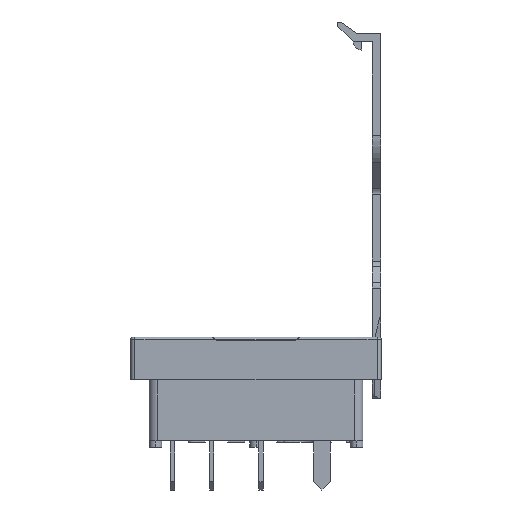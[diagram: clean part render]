
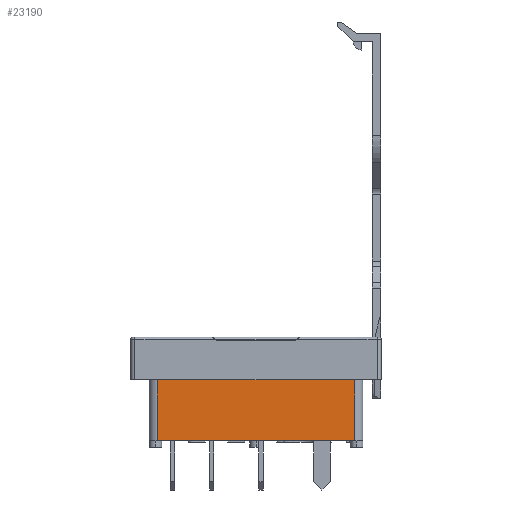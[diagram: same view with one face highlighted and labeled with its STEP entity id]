
A CAD part, left-side view. The second image highlights one B-rep face of the part: STEP entity #23190.
In plain terms, the highlighted planar face has unit normal (-1, 0, 0).
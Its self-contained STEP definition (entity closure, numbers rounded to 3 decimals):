
#1484 = EDGE_CURVE ( 'NONE', #16642, #3687, #10764, .T. ) ;
#2959 = LINE ( 'NONE', #26568, #15065 ) ;
#3687 = VERTEX_POINT ( 'NONE', #24061 ) ;
#3760 = ORIENTED_EDGE ( 'NONE', *, *, #24515, .F. ) ;
#4346 = CARTESIAN_POINT ( 'NONE',  ( 1.75, 26.8, 17. ) ) ;
#6613 = CARTESIAN_POINT ( 'NONE',  ( 1.75, 27.8, 13.2 ) ) ;
#6900 = DIRECTION ( 'NONE',  ( 0., -1., 0. ) ) ;
#7366 = CARTESIAN_POINT ( 'NONE',  ( 1.75, 26.8, 5.9 ) ) ;
#8208 = EDGE_CURVE ( 'NONE', #10502, #19221, #24657, .T. ) ;
#8717 = PLANE ( 'NONE',  #17303 ) ;
#8962 = DIRECTION ( 'NONE',  ( 0., 0., -1. ) ) ;
#9202 = CARTESIAN_POINT ( 'NONE',  ( 1.75, 26.8, 5.9 ) ) ;
#9785 = EDGE_LOOP ( 'NONE', ( #3760, #21422, #26823, #28136 ) ) ;
#9794 = CARTESIAN_POINT ( 'NONE',  ( 1.75, 3.2, 5.9 ) ) ;
#10502 = VERTEX_POINT ( 'NONE', #17776 ) ;
#10734 = EDGE_CURVE ( 'NONE', #19221, #16642, #15184, .T. ) ;
#10764 = LINE ( 'NONE', #6613, #22777 ) ;
#15065 = VECTOR ( 'NONE', #8962, 1000. ) ;
#15184 = LINE ( 'NONE', #4346, #27137 ) ;
#16642 = VERTEX_POINT ( 'NONE', #21737 ) ;
#17303 = AXIS2_PLACEMENT_3D ( 'NONE', #21263, #19703, #17559 ) ;
#17559 = DIRECTION ( 'NONE',  ( 0., 1., 0. ) ) ;
#17776 = CARTESIAN_POINT ( 'NONE',  ( 1.75, 3.2, 5.9 ) ) ;
#19221 = VERTEX_POINT ( 'NONE', #9202 ) ;
#19703 = DIRECTION ( 'NONE',  ( 1., 0., 0. ) ) ;
#21263 = CARTESIAN_POINT ( 'NONE',  ( 1.75, 27.8, 17. ) ) ;
#21422 = ORIENTED_EDGE ( 'NONE', *, *, #1484, .F. ) ;
#21697 = FACE_OUTER_BOUND ( 'NONE', #9785, .T. ) ;
#21737 = CARTESIAN_POINT ( 'NONE',  ( 1.75, 26.8, 13.2 ) ) ;
#22777 = VECTOR ( 'NONE', #6900, 1000. ) ;
#23190 = ADVANCED_FACE ( 'NONE', ( #21697 ), #8717, .F. ) ;
#24061 = CARTESIAN_POINT ( 'NONE',  ( 1.75, 3.2, 13.2 ) ) ;
#24515 = EDGE_CURVE ( 'NONE', #3687, #10502, #2959, .T. ) ;
#24657 = B_SPLINE_CURVE_WITH_KNOTS ( 'NONE', 1,
 ( #9794, #7366 ),
 .UNSPECIFIED., .F., .F.,
 ( 2, 2 ),
 ( 0., 1. ),
 .UNSPECIFIED. ) ;
#26568 = CARTESIAN_POINT ( 'NONE',  ( 1.75, 3.2, 17. ) ) ;
#26823 = ORIENTED_EDGE ( 'NONE', *, *, #10734, .F. ) ;
#27137 = VECTOR ( 'NONE', #27935, 1000. ) ;
#27935 = DIRECTION ( 'NONE',  ( 0., 0., 1. ) ) ;
#28136 = ORIENTED_EDGE ( 'NONE', *, *, #8208, .F. ) ;
